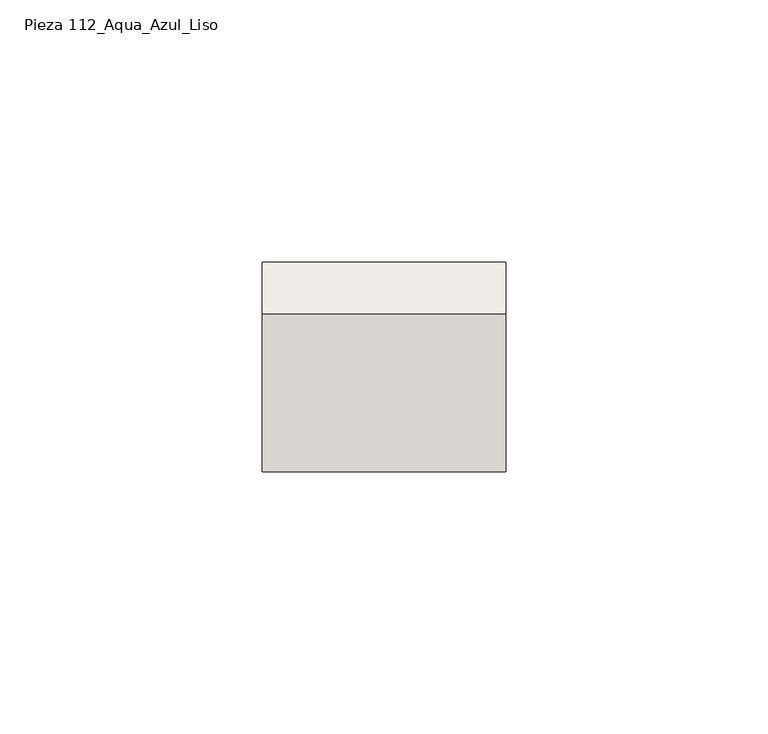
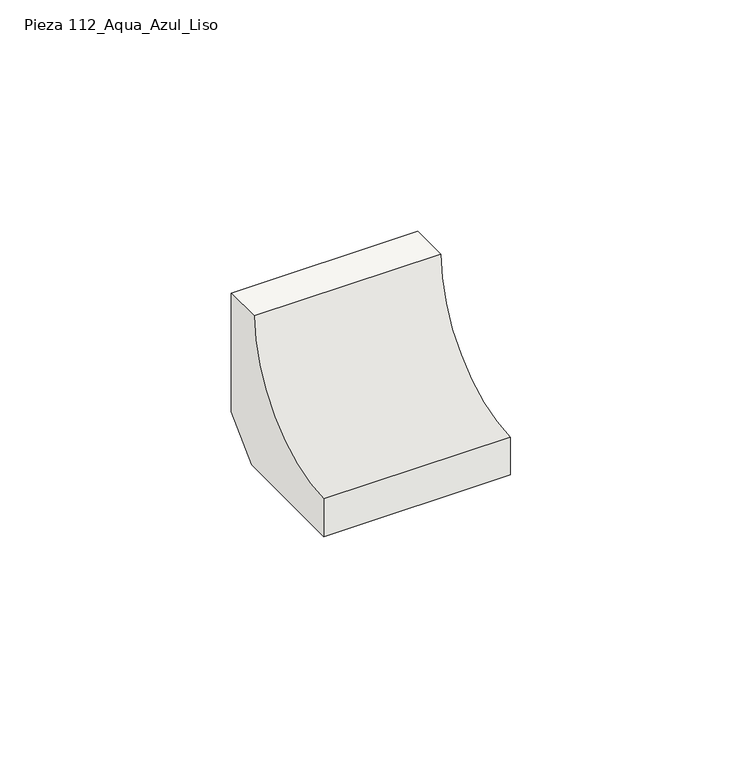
"""IFC4 building model written with IfcOpenShell, lengths in millimetres: slab geometry, ROSA GRES_112 : Pieza 112_Aqua_Azul_Liso."""

from ifc_helpers import new_model, si_unit, point, frame, frame_2d, origin, place, context, project, spatial, polyline, circle_curve, trimmed, segment, composite_curve, outline, extrude, source, transform, mapped, element, save


def pieza_112_aqua_azul_liso_9920d825(model_context):
    return source(origin(), model_context, "Body", "SweptSolid", [
        extrude(outline(composite_curve([segment(polyline([(0.0, 8.7114978), (-8.7114978, 0.0), (-40.0, 0.0), (-40.0, 9.9734114)]), True, "CONTINUOUS"), segment(trimmed(circle_curve(frame_2d((-39.9955547, 39.9955547)), 30.0221435), [point((-40.0, 9.9734114))], [point((-9.9734114, 40.0))], True, "CARTESIAN"), True, "CONTINUOUS"), segment(polyline([(-9.9734114, 40.0), (0.0, 40.0), (0.0, 8.7114978)]), True, "CONTINUOUS")], self_intersect=False)), frame((0.0, 0.0, 0.0), z_axis=(1.0, 0.0, 0.0), x_axis=(0.0, 1.0, 0.0)), (0.0, 0.0, 1.0), 46.5),
    ])


if __name__ == "__main__":
    model = new_model("IFC4")
    model_context = context("Model", 3, world=origin())
    ifc_project = project(units=[si_unit("LENGTHUNIT", "METRE", prefix="MILLI")], contexts=[model_context])
    site = spatial("IfcSite", under=ifc_project)
    building = spatial("IfcBuilding", under=site)
    placement = place(None, origin())
    pieza_112_aqua_azul_liso_shape = pieza_112_aqua_azul_liso_9920d825(model_context)
    element("IfcSlab", 1, ObjectType="ROSA GRES_112 : Pieza 112_Aqua_Azul_Liso", at=placement, inside=building, context=model_context, shape_type="MappedRepresentation", body=[
        mapped(pieza_112_aqua_azul_liso_shape, transform((0.0, 0.0, 0.0), x_axis=(1.0, 0.0, 0.0), y_axis=(0.0, 1.0, 0.0), z_axis=(0.0, 0.0, 1.0))),
    ])
    save(model, "model.ifc")
